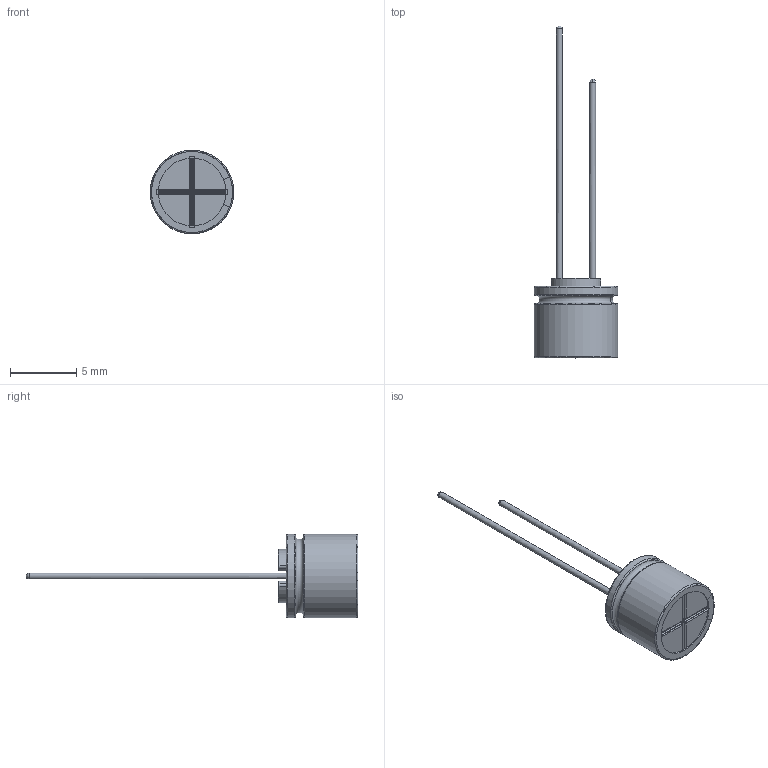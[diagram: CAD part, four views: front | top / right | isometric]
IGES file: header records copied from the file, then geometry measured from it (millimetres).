
Start section: JAMA-IS VERSION  1.0
Bounding box: 6.29 x 25 x 6.3 mm (x, y, z)
Surface area: 492.7 mm2 (no closed solid volume)
Topology: 0 solids, 0 shells, 120 faces, 1287 edges, 1276 vertices
Faces by surface type: bspline 120
